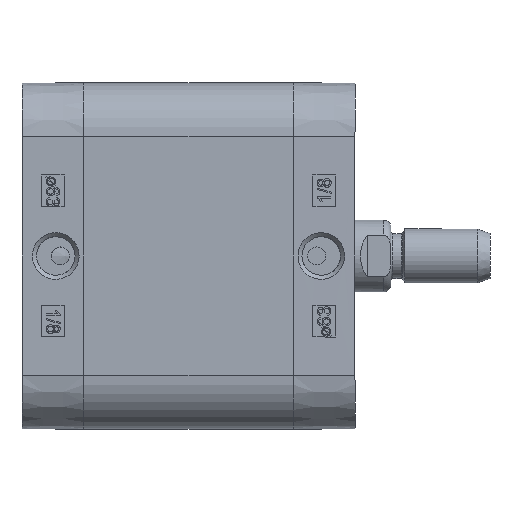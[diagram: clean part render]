
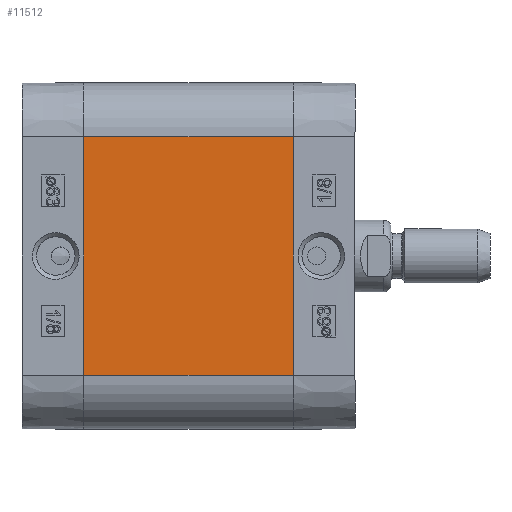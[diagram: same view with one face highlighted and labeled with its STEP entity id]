
A CAD part, left-side view. The second image highlights one B-rep face of the part: STEP entity #11512.
In plain terms, the highlighted planar face has unit normal (-1, 0, 0).
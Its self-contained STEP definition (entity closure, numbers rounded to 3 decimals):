
#5842=CARTESIAN_POINT('',(-38.5,-46.5,26.5));
#5843=VERTEX_POINT('',#5842);
#5850=CARTESIAN_POINT('',(-38.5,-46.5,-26.5));
#5851=VERTEX_POINT('',#5850);
#5852=CARTESIAN_POINT('',(-38.5,-46.5,-26.5));
#5853=DIRECTION('',(0.0,0.0,1.0));
#5854=VECTOR('',#5853,53.0);
#5855=LINE('',#5852,#5854);
#5856=EDGE_CURVE('',#5851,#5843,#5855,.T.);
#11470=CARTESIAN_POINT('',(-38.5,0.0,-26.5));
#11471=VERTEX_POINT('',#11470);
#11472=CARTESIAN_POINT('',(-38.5,0.0,-26.5));
#11473=DIRECTION('',(0.0,-1.0,0.0));
#11474=VECTOR('',#11473,46.5);
#11475=LINE('',#11472,#11474);
#11476=EDGE_CURVE('',#11471,#5851,#11475,.T.);
#11489=CARTESIAN_POINT('',(-38.5,0.0,-26.5));
#11490=DIRECTION('',(-1.0,0.0,0.0));
#11491=DIRECTION('',(0.0,0.0,1.0));
#11492=AXIS2_PLACEMENT_3D('',#11489,#11490,#11491);
#11493=PLANE('',#11492);
#11494=ORIENTED_EDGE('',*,*,#5856,.T.);
#11495=CARTESIAN_POINT('',(-38.5,0.0,26.5));
#11496=VERTEX_POINT('',#11495);
#11497=CARTESIAN_POINT('',(-38.5,0.0,26.5));
#11498=DIRECTION('',(0.0,-1.0,0.0));
#11499=VECTOR('',#11498,46.5);
#11500=LINE('',#11497,#11499);
#11501=EDGE_CURVE('',#11496,#5843,#11500,.T.);
#11502=ORIENTED_EDGE('',*,*,#11501,.F.);
#11503=CARTESIAN_POINT('',(-38.5,0.0,-26.5));
#11504=DIRECTION('',(0.0,0.0,1.0));
#11505=VECTOR('',#11504,53.0);
#11506=LINE('',#11503,#11505);
#11507=EDGE_CURVE('',#11471,#11496,#11506,.T.);
#11508=ORIENTED_EDGE('',*,*,#11507,.F.);
#11509=ORIENTED_EDGE('',*,*,#11476,.T.);
#11510=EDGE_LOOP('',(#11494,#11502,#11508,#11509));
#11511=FACE_OUTER_BOUND('',#11510,.T.);
#11512=ADVANCED_FACE('',(#11511),#11493,.T.);
